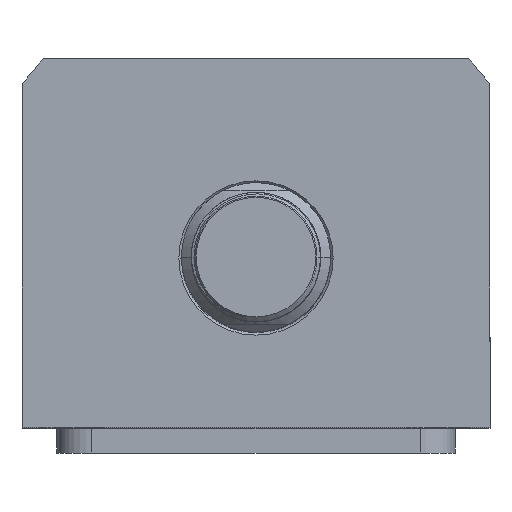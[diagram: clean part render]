
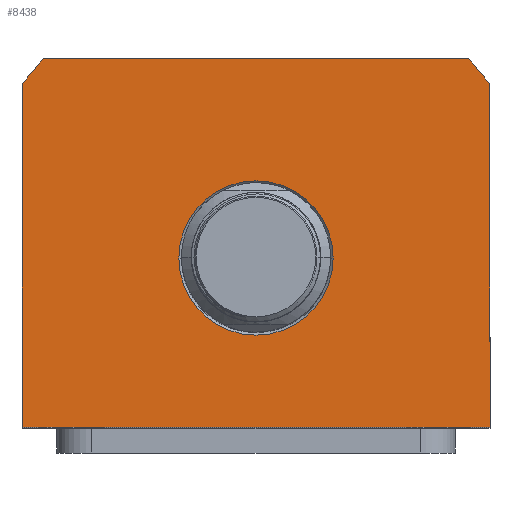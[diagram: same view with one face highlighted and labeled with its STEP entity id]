
A CAD part, top view. The second image highlights one B-rep face of the part: STEP entity #8438.
In plain terms, the highlighted planar face has unit normal (0, 0, 1).
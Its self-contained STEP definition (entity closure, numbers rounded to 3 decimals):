
#116 = CARTESIAN_POINT ( 'NONE',  ( 0., 0., 70. ) ) ;
#209 = EDGE_CURVE ( 'NONE', #9342, #5776, #18030, .T. ) ;
#1254 = ORIENTED_EDGE ( 'NONE', *, *, #209, .T. ) ;
#1258 = DIRECTION ( 'NONE',  ( 1., 0., 0. ) ) ;
#1572 = DIRECTION ( 'NONE',  ( 0., 0., -1. ) ) ;
#1725 = LINE ( 'NONE', #7486, #7656 ) ;
#1888 = DIRECTION ( 'NONE',  ( 0., 0., -1. ) ) ;
#3508 = EDGE_CURVE ( 'NONE', #12616, #17998, #9953, .T. ) ;
#3576 = FACE_BOUND ( 'NONE', #9989, .T. ) ;
#4103 = CARTESIAN_POINT ( 'NONE',  ( -47., -34., 70. ) ) ;
#4152 = DIRECTION ( 'NONE',  ( 1., 0., 0. ) ) ;
#4654 = PLANE ( 'NONE',  #8383 ) ;
#4700 = CARTESIAN_POINT ( 'NONE',  ( -42.688, 40., 70. ) ) ;
#4862 = DIRECTION ( 'NONE',  ( 1., 0., 0. ) ) ;
#4944 = AXIS2_PLACEMENT_3D ( 'NONE', #8874, #14859, #4152 ) ;
#5232 = CARTESIAN_POINT ( 'NONE',  ( 42.688, 40., 70. ) ) ;
#5432 = ORIENTED_EDGE ( 'NONE', *, *, #9676, .T. ) ;
#5463 = CIRCLE ( 'NONE', #17517, 58.5 ) ;
#5776 = VERTEX_POINT ( 'NONE', #14130 ) ;
#6386 = CARTESIAN_POINT ( 'NONE',  ( 0., 0., 70. ) ) ;
#6420 = CIRCLE ( 'NONE', #4944, 58.5 ) ;
#6932 = VERTEX_POINT ( 'NONE', #5232 ) ;
#7486 = CARTESIAN_POINT ( 'NONE',  ( 47., -34., 70. ) ) ;
#7656 = VECTOR ( 'NONE', #1258, 1000. ) ;
#8062 = VERTEX_POINT ( 'NONE', #14308 ) ;
#8322 = EDGE_CURVE ( 'NONE', #8062, #6932, #6420, .T. ) ;
#8383 = AXIS2_PLACEMENT_3D ( 'NONE', #116, #9131, #10793 ) ;
#8438 = ADVANCED_FACE ( 'NONE', ( #3576, #14963 ), #4654, .T. ) ;
#8498 = DIRECTION ( 'NONE',  ( 0., 1., 0. ) ) ;
#8556 = ORIENTED_EDGE ( 'NONE', *, *, #13960, .T. ) ;
#8769 = VECTOR ( 'NONE', #8498, 1000. ) ;
#8874 = CARTESIAN_POINT ( 'NONE',  ( 0., 0., 70. ) ) ;
#9013 = AXIS2_PLACEMENT_3D ( 'NONE', #15018, #1572, #18187 ) ;
#9034 = ORIENTED_EDGE ( 'NONE', *, *, #15259, .T. ) ;
#9131 = DIRECTION ( 'NONE',  ( 0., 0., 1. ) ) ;
#9134 = CARTESIAN_POINT ( 'NONE',  ( -47., -34., 70. ) ) ;
#9270 = CARTESIAN_POINT ( 'NONE',  ( 47., -34., 70. ) ) ;
#9342 = VERTEX_POINT ( 'NONE', #13388 ) ;
#9676 = EDGE_CURVE ( 'NONE', #6932, #16759, #14744, .T. ) ;
#9953 = LINE ( 'NONE', #4103, #14716 ) ;
#9989 = EDGE_LOOP ( 'NONE', ( #1254, #12942 ) ) ;
#10446 = VERTEX_POINT ( 'NONE', #9270 ) ;
#10617 = EDGE_LOOP ( 'NONE', ( #8556, #18640, #16328, #5432, #9034, #16069 ) ) ;
#10793 = DIRECTION ( 'NONE',  ( 1., 0., 0. ) ) ;
#11071 = EDGE_CURVE ( 'NONE', #10446, #8062, #14695, .T. ) ;
#11369 = CIRCLE ( 'NONE', #9013, 15.5 ) ;
#12616 = VERTEX_POINT ( 'NONE', #18206 ) ;
#12942 = ORIENTED_EDGE ( 'NONE', *, *, #16280, .T. ) ;
#13388 = CARTESIAN_POINT ( 'NONE',  ( 15.5, 0., 70. ) ) ;
#13934 = DIRECTION ( 'NONE',  ( 1., 0., 0. ) ) ;
#13960 = EDGE_CURVE ( 'NONE', #17998, #10446, #1725, .T. ) ;
#14130 = CARTESIAN_POINT ( 'NONE',  ( -15.5, 0., 70. ) ) ;
#14308 = CARTESIAN_POINT ( 'NONE',  ( 47., 34.832, 70. ) ) ;
#14695 = LINE ( 'NONE', #17612, #8769 ) ;
#14716 = VECTOR ( 'NONE', #17714, 1000. ) ;
#14744 = LINE ( 'NONE', #4700, #15702 ) ;
#14859 = DIRECTION ( 'NONE',  ( 0., 0., 1. ) ) ;
#14963 = FACE_OUTER_BOUND ( 'NONE', #10617, .T. ) ;
#15018 = CARTESIAN_POINT ( 'NONE',  ( 0., 0., 70. ) ) ;
#15259 = EDGE_CURVE ( 'NONE', #16759, #12616, #5463, .T. ) ;
#15407 = DIRECTION ( 'NONE',  ( 0., 0., 1. ) ) ;
#15702 = VECTOR ( 'NONE', #19663, 1000. ) ;
#16069 = ORIENTED_EDGE ( 'NONE', *, *, #3508, .T. ) ;
#16280 = EDGE_CURVE ( 'NONE', #5776, #9342, #11369, .T. ) ;
#16328 = ORIENTED_EDGE ( 'NONE', *, *, #8322, .T. ) ;
#16759 = VERTEX_POINT ( 'NONE', #17408 ) ;
#17408 = CARTESIAN_POINT ( 'NONE',  ( -42.688, 40., 70. ) ) ;
#17517 = AXIS2_PLACEMENT_3D ( 'NONE', #18444, #15407, #13934 ) ;
#17612 = CARTESIAN_POINT ( 'NONE',  ( 47., 34.832, 70. ) ) ;
#17714 = DIRECTION ( 'NONE',  ( 0., -1., 0. ) ) ;
#17998 = VERTEX_POINT ( 'NONE', #9134 ) ;
#18030 = CIRCLE ( 'NONE', #19591, 15.5 ) ;
#18187 = DIRECTION ( 'NONE',  ( 1., 0., 0. ) ) ;
#18206 = CARTESIAN_POINT ( 'NONE',  ( -47., 34.832, 70. ) ) ;
#18444 = CARTESIAN_POINT ( 'NONE',  ( 0., 0., 70. ) ) ;
#18640 = ORIENTED_EDGE ( 'NONE', *, *, #11071, .T. ) ;
#19591 = AXIS2_PLACEMENT_3D ( 'NONE', #6386, #1888, #4862 ) ;
#19663 = DIRECTION ( 'NONE',  ( -1., 0., 0. ) ) ;
